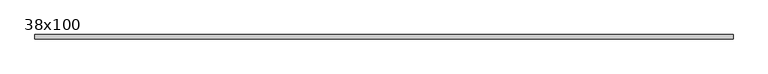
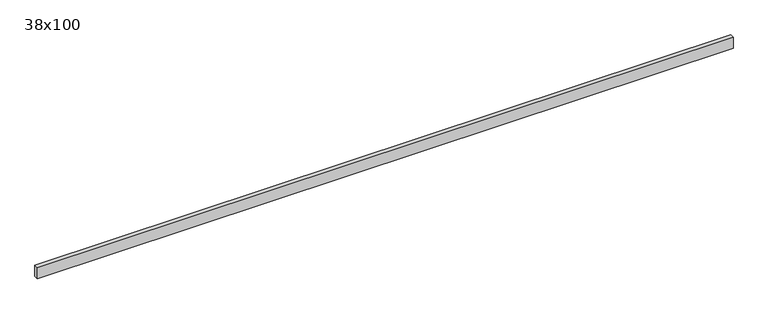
"""IFC4 building model written with IfcOpenShell, lengths in millimetres: beam geometry, Poutre - Bois de construction de dimensions courantes : 38x100."""

from ifc_helpers import new_model, si_unit, frame, origin, place, context, project, spatial, polyline, outline, extrude, source, transform, mapped, element, save


def beam_38x100_ef2fda8b(model_context):
    return source(origin(), model_context, "Body", "SweptSolid", [
        extrude(outline(polyline([(3184.7358853, 19.05), (3184.7358853, -19.05), (-2842.5, -19.05), (-2842.5, 19.05), (3184.7358853, 19.05)])), frame((0.0, 0.0, -50.0), z_axis=(0.0, 0.0, 1.0), x_axis=(1.0, 0.0, 0.0)), (0.0, 0.0, 1.0), 100.0),
    ])


if __name__ == "__main__":
    model = new_model("IFC4")
    model_context = context("Model", 3, world=origin())
    ifc_project = project(units=[si_unit("LENGTHUNIT", "METRE", prefix="MILLI")], contexts=[model_context])
    site = spatial("IfcSite", under=ifc_project)
    building = spatial("IfcBuilding", under=site)
    placement = place(None, origin())
    beam_38x100_shape = beam_38x100_ef2fda8b(model_context)
    element("IfcBeam", 1, ObjectType="Poutre - Bois de construction de dimensions courantes : 38x100", at=placement, inside=building, context=model_context, shape_type="MappedRepresentation", body=[
        mapped(beam_38x100_shape, transform((0.0, 0.0, 0.0), x_axis=(1.0, 0.0, 0.0), y_axis=(0.0, 1.0, 0.0), z_axis=(0.0, 0.0, 1.0))),
    ])
    save(model, "model.ifc")
